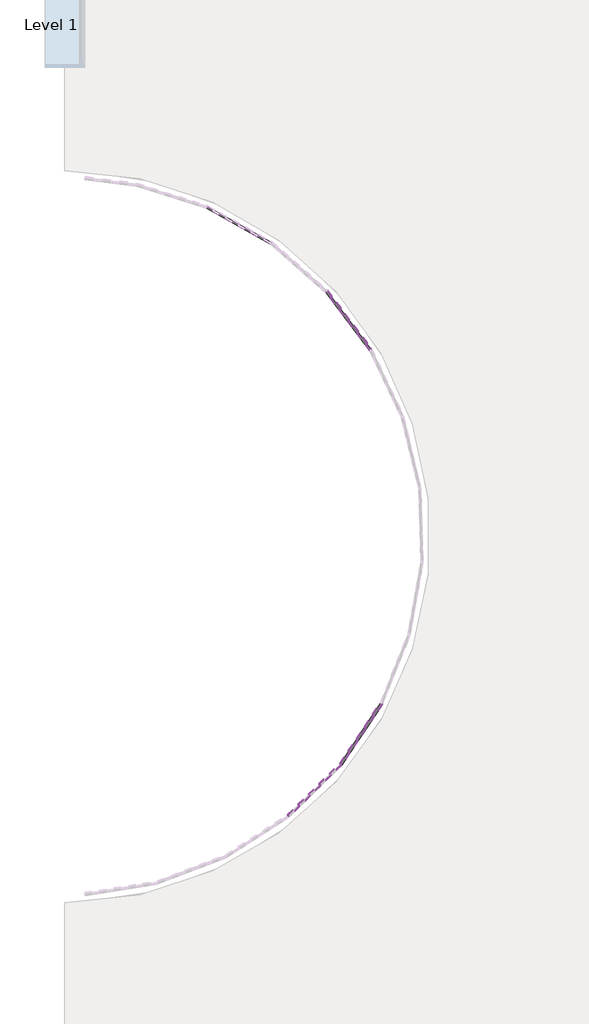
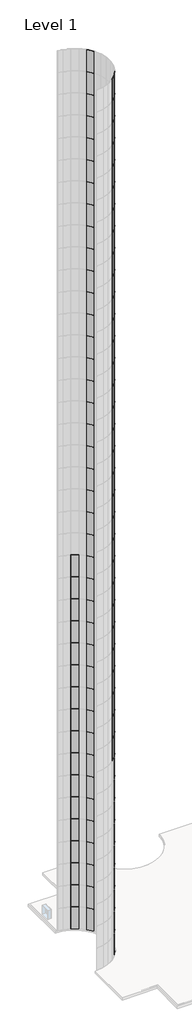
# One storey, part 3 of 19: 128 plates.
"""IFC4 building model written with IfcOpenShell, lengths in millimetres."""

from ifc_helpers import new_model, si_unit, origin, place, context, project, spatial, transform, mapped, element, save
from components import system_panel_glazed_d77d1ebf

model = new_model("IFC4")

# Units and contexts
model_context = context("Model", 3, world=origin())
ifc_project = project(units=[si_unit("LENGTHUNIT", "METRE", prefix="MILLI")], contexts=[model_context])

# Site, building, storey
site = spatial("IfcSite", under=ifc_project)
building = spatial("IfcBuilding", under=site)
storey = spatial("IfcBuildingStorey", under=building, Name="Level 1", Elevation=0.0)

# Plates
placement = place(None, origin())
system_panel_glazed_shape = system_panel_glazed_d77d1ebf(model_context)
element("IfcPlate", 1, ObjectType="System Panel : Glazed", at=placement, inside=storey, context=model_context, shape_type="MappedRepresentation", body=[
    mapped(system_panel_glazed_shape, transform((-8194.3790499, -3518.0259599, 0.0), x_axis=(-0.603512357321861, 0.7973536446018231, 0.0), y_axis=(-0.7973536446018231, -0.603512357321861, 0.0), z_axis=(0.0, 0.0, 1.0))),
])
element("IfcPlate", 2, ObjectType="System Panel : Glazed", at=placement, inside=storey, context=model_context, shape_type="MappedRepresentation", body=[
    mapped(system_panel_glazed_shape, transform((-9558.369511, -2329.0151794, 0.0), x_axis=(-0.8722386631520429, 0.4890804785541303, 0.0), y_axis=(-0.4890804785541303, -0.8722386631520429, 0.0), z_axis=(0.0, 0.0, 1.0))),
])
element("IfcPlate", 3, ObjectType="System Panel : Glazed", at=placement, inside=storey, context=model_context, shape_type="MappedRepresentation", body=[
    mapped(system_panel_glazed_shape, transform((-8194.3790499, -3518.0259599, 3048.0), x_axis=(-0.603512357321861, 0.7973536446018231, 0.0), y_axis=(-0.7973536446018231, -0.603512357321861, 0.0), z_axis=(0.0, 0.0, 1.0))),
])
element("IfcPlate", 4, ObjectType="System Panel : Glazed", at=placement, inside=storey, context=model_context, shape_type="MappedRepresentation", body=[
    mapped(system_panel_glazed_shape, transform((-9558.369511, -2329.0151794, 3048.0), x_axis=(-0.8722386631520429, 0.4890804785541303, 0.0), y_axis=(-0.4890804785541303, -0.8722386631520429, 0.0), z_axis=(0.0, 0.0, 1.0))),
])
element("IfcPlate", 5, ObjectType="System Panel : Glazed", at=placement, inside=storey, context=model_context, shape_type="MappedRepresentation", body=[
    mapped(system_panel_glazed_shape, transform((-8194.3790499, -3518.0259599, 6096.0), x_axis=(-0.603512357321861, 0.7973536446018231, 0.0), y_axis=(-0.7973536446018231, -0.603512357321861, 0.0), z_axis=(0.0, 0.0, 1.0))),
])
element("IfcPlate", 6, ObjectType="System Panel : Glazed", at=placement, inside=storey, context=model_context, shape_type="MappedRepresentation", body=[
    mapped(system_panel_glazed_shape, transform((-9558.369511, -2329.0151794, 6096.0), x_axis=(-0.8722386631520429, 0.4890804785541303, 0.0), y_axis=(-0.4890804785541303, -0.8722386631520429, 0.0), z_axis=(0.0, 0.0, 1.0))),
])
element("IfcPlate", 7, ObjectType="System Panel : Glazed", at=placement, inside=storey, context=model_context, shape_type="MappedRepresentation", body=[
    mapped(system_panel_glazed_shape, transform((-8194.3790499, -3518.0259599, 9144.0), x_axis=(-0.603512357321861, 0.7973536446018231, 0.0), y_axis=(-0.7973536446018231, -0.603512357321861, 0.0), z_axis=(0.0, 0.0, 1.0))),
])
element("IfcPlate", 8, ObjectType="System Panel : Glazed", at=placement, inside=storey, context=model_context, shape_type="MappedRepresentation", body=[
    mapped(system_panel_glazed_shape, transform((-9558.369511, -2329.0151794, 9144.0), x_axis=(-0.8722386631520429, 0.4890804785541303, 0.0), y_axis=(-0.4890804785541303, -0.8722386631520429, 0.0), z_axis=(0.0, 0.0, 1.0))),
])
element("IfcPlate", 9, ObjectType="System Panel : Glazed", at=placement, inside=storey, context=model_context, shape_type="MappedRepresentation", body=[
    mapped(system_panel_glazed_shape, transform((-8194.3790499, -3518.0259599, 12192.0), x_axis=(-0.603512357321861, 0.7973536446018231, 0.0), y_axis=(-0.7973536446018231, -0.603512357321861, 0.0), z_axis=(0.0, 0.0, 1.0))),
])
element("IfcPlate", 10, ObjectType="System Panel : Glazed", at=placement, inside=storey, context=model_context, shape_type="MappedRepresentation", body=[
    mapped(system_panel_glazed_shape, transform((-9558.369511, -2329.0151794, 12192.0), x_axis=(-0.8722386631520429, 0.4890804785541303, 0.0), y_axis=(-0.4890804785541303, -0.8722386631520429, 0.0), z_axis=(0.0, 0.0, 1.0))),
])
element("IfcPlate", 11, ObjectType="System Panel : Glazed", at=placement, inside=storey, context=model_context, shape_type="MappedRepresentation", body=[
    mapped(system_panel_glazed_shape, transform((-8194.3790499, -3518.0259599, 15240.0), x_axis=(-0.603512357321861, 0.7973536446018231, 0.0), y_axis=(-0.7973536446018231, -0.603512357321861, 0.0), z_axis=(0.0, 0.0, 1.0))),
])
element("IfcPlate", 12, ObjectType="System Panel : Glazed", at=placement, inside=storey, context=model_context, shape_type="MappedRepresentation", body=[
    mapped(system_panel_glazed_shape, transform((-9558.369511, -2329.0151794, 15240.0), x_axis=(-0.8722386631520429, 0.4890804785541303, 0.0), y_axis=(-0.4890804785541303, -0.8722386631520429, 0.0), z_axis=(0.0, 0.0, 1.0))),
])
element("IfcPlate", 13, ObjectType="System Panel : Glazed", at=placement, inside=storey, context=model_context, shape_type="MappedRepresentation", body=[
    mapped(system_panel_glazed_shape, transform((-8194.3790499, -3518.0259599, 18288.0), x_axis=(-0.6035123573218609, 0.7973536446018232, 0.0), y_axis=(-0.7973536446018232, -0.6035123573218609, 0.0), z_axis=(0.0, 0.0, 1.0))),
])
element("IfcPlate", 14, ObjectType="System Panel : Glazed", at=placement, inside=storey, context=model_context, shape_type="MappedRepresentation", body=[
    mapped(system_panel_glazed_shape, transform((-9558.369511, -2329.0151794, 18288.0), x_axis=(-0.8722386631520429, 0.4890804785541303, 0.0), y_axis=(-0.4890804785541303, -0.8722386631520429, 0.0), z_axis=(0.0, 0.0, 1.0))),
])
element("IfcPlate", 15, ObjectType="System Panel : Glazed", at=placement, inside=storey, context=model_context, shape_type="MappedRepresentation", body=[
    mapped(system_panel_glazed_shape, transform((-8194.3790499, -3518.0259599, 21336.0), x_axis=(-0.603512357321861, 0.7973536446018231, 0.0), y_axis=(-0.7973536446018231, -0.603512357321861, 0.0), z_axis=(0.0, 0.0, 1.0))),
])
element("IfcPlate", 16, ObjectType="System Panel : Glazed", at=placement, inside=storey, context=model_context, shape_type="MappedRepresentation", body=[
    mapped(system_panel_glazed_shape, transform((-9558.369511, -2329.0151794, 21336.0), x_axis=(-0.8722386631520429, 0.4890804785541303, 0.0), y_axis=(-0.4890804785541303, -0.8722386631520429, 0.0), z_axis=(0.0, 0.0, 1.0))),
])
element("IfcPlate", 17, ObjectType="System Panel : Glazed", at=placement, inside=storey, context=model_context, shape_type="MappedRepresentation", body=[
    mapped(system_panel_glazed_shape, transform((-8194.3790499, -3518.0259599, 24384.0), x_axis=(-0.603512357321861, 0.7973536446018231, 0.0), y_axis=(-0.7973536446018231, -0.603512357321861, 0.0), z_axis=(0.0, 0.0, 1.0))),
])
element("IfcPlate", 18, ObjectType="System Panel : Glazed", at=placement, inside=storey, context=model_context, shape_type="MappedRepresentation", body=[
    mapped(system_panel_glazed_shape, transform((-9558.369511, -2329.0151794, 24384.0), x_axis=(-0.8722386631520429, 0.4890804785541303, 0.0), y_axis=(-0.4890804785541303, -0.8722386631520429, 0.0), z_axis=(0.0, 0.0, 1.0))),
])
element("IfcPlate", 19, ObjectType="System Panel : Glazed", at=placement, inside=storey, context=model_context, shape_type="MappedRepresentation", body=[
    mapped(system_panel_glazed_shape, transform((-8194.3790499, -3518.0259599, 27432.0), x_axis=(-0.603512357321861, 0.7973536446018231, 0.0), y_axis=(-0.7973536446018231, -0.603512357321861, 0.0), z_axis=(0.0, 0.0, 1.0))),
])
element("IfcPlate", 20, ObjectType="System Panel : Glazed", at=placement, inside=storey, context=model_context, shape_type="MappedRepresentation", body=[
    mapped(system_panel_glazed_shape, transform((-9558.369511, -2329.0151794, 27432.0), x_axis=(-0.8722386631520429, 0.4890804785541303, 0.0), y_axis=(-0.4890804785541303, -0.8722386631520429, 0.0), z_axis=(0.0, 0.0, 1.0))),
])
element("IfcPlate", 21, ObjectType="System Panel : Glazed", at=placement, inside=storey, context=model_context, shape_type="MappedRepresentation", body=[
    mapped(system_panel_glazed_shape, transform((-8194.3790499, -3518.0259599, 30480.0), x_axis=(-0.603512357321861, 0.7973536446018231, 0.0), y_axis=(-0.7973536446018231, -0.603512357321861, 0.0), z_axis=(0.0, 0.0, 1.0))),
])
element("IfcPlate", 22, ObjectType="System Panel : Glazed", at=placement, inside=storey, context=model_context, shape_type="MappedRepresentation", body=[
    mapped(system_panel_glazed_shape, transform((-9558.369511, -2329.0151794, 30480.0), x_axis=(-0.8722386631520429, 0.4890804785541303, 0.0), y_axis=(-0.4890804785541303, -0.8722386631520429, 0.0), z_axis=(0.0, 0.0, 1.0))),
])
element("IfcPlate", 23, ObjectType="System Panel : Glazed", at=placement, inside=storey, context=model_context, shape_type="MappedRepresentation", body=[
    mapped(system_panel_glazed_shape, transform((-8194.3790499, -3518.0259599, 33528.0), x_axis=(-0.603512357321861, 0.7973536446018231, 0.0), y_axis=(-0.7973536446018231, -0.603512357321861, 0.0), z_axis=(0.0, 0.0, 1.0))),
])
element("IfcPlate", 24, ObjectType="System Panel : Glazed", at=placement, inside=storey, context=model_context, shape_type="MappedRepresentation", body=[
    mapped(system_panel_glazed_shape, transform((-9558.369511, -2329.0151794, 33528.0), x_axis=(-0.8722386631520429, 0.4890804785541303, 0.0), y_axis=(-0.4890804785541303, -0.8722386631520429, 0.0), z_axis=(0.0, 0.0, 1.0))),
])
element("IfcPlate", 25, ObjectType="System Panel : Glazed", at=placement, inside=storey, context=model_context, shape_type="MappedRepresentation", body=[
    mapped(system_panel_glazed_shape, transform((-8194.3790499, -3518.0259599, 36576.0), x_axis=(-0.603512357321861, 0.7973536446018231, 0.0), y_axis=(-0.7973536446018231, -0.603512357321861, 0.0), z_axis=(0.0, 0.0, 1.0))),
])
element("IfcPlate", 26, ObjectType="System Panel : Glazed", at=placement, inside=storey, context=model_context, shape_type="MappedRepresentation", body=[
    mapped(system_panel_glazed_shape, transform((-9558.369511, -2329.0151794, 36576.0), x_axis=(-0.8722386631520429, 0.4890804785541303, 0.0), y_axis=(-0.4890804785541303, -0.8722386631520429, 0.0), z_axis=(0.0, 0.0, 1.0))),
])
element("IfcPlate", 27, ObjectType="System Panel : Glazed", at=placement, inside=storey, context=model_context, shape_type="MappedRepresentation", body=[
    mapped(system_panel_glazed_shape, transform((-8194.3790499, -3518.0259599, 39624.0), x_axis=(-0.603512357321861, 0.7973536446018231, 0.0), y_axis=(-0.7973536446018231, -0.603512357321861, 0.0), z_axis=(0.0, 0.0, 1.0))),
])
element("IfcPlate", 28, ObjectType="System Panel : Glazed", at=placement, inside=storey, context=model_context, shape_type="MappedRepresentation", body=[
    mapped(system_panel_glazed_shape, transform((-9558.369511, -2329.0151794, 39624.0), x_axis=(-0.8722386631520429, 0.4890804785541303, 0.0), y_axis=(-0.4890804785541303, -0.8722386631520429, 0.0), z_axis=(0.0, 0.0, 1.0))),
])
element("IfcPlate", 29, ObjectType="System Panel : Glazed", at=placement, inside=storey, context=model_context, shape_type="MappedRepresentation", body=[
    mapped(system_panel_glazed_shape, transform((-8194.3790499, -3518.0259599, 42672.0), x_axis=(-0.603512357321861, 0.7973536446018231, 0.0), y_axis=(-0.7973536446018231, -0.603512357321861, 0.0), z_axis=(0.0, 0.0, 1.0))),
])
element("IfcPlate", 30, ObjectType="System Panel : Glazed", at=placement, inside=storey, context=model_context, shape_type="MappedRepresentation", body=[
    mapped(system_panel_glazed_shape, transform((-9558.369511, -2329.0151794, 42672.0), x_axis=(-0.8722386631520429, 0.4890804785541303, 0.0), y_axis=(-0.4890804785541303, -0.8722386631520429, 0.0), z_axis=(0.0, 0.0, 1.0))),
])
element("IfcPlate", 31, ObjectType="System Panel : Glazed", at=placement, inside=storey, context=model_context, shape_type="MappedRepresentation", body=[
    mapped(system_panel_glazed_shape, transform((-8194.3790499, -3518.0259599, 45720.0), x_axis=(-0.603512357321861, 0.7973536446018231, 0.0), y_axis=(-0.7973536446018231, -0.603512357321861, 0.0), z_axis=(0.0, 0.0, 1.0))),
])
element("IfcPlate", 32, ObjectType="System Panel : Glazed", at=placement, inside=storey, context=model_context, shape_type="MappedRepresentation", body=[
    mapped(system_panel_glazed_shape, transform((-9558.369511, -2329.0151794, 45720.0), x_axis=(-0.8722386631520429, 0.4890804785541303, 0.0), y_axis=(-0.4890804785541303, -0.8722386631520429, 0.0), z_axis=(0.0, 0.0, 1.0))),
])
element("IfcPlate", 33, ObjectType="System Panel : Glazed", at=placement, inside=storey, context=model_context, shape_type="MappedRepresentation", body=[
    mapped(system_panel_glazed_shape, transform((-8194.3790499, -3518.0259599, 48768.0), x_axis=(-0.603512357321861, 0.7973536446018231, 0.0), y_axis=(-0.7973536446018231, -0.603512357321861, 0.0), z_axis=(0.0, 0.0, 1.0))),
])
element("IfcPlate", 34, ObjectType="System Panel : Glazed", at=placement, inside=storey, context=model_context, shape_type="MappedRepresentation", body=[
    mapped(system_panel_glazed_shape, transform((-9558.369511, -2329.0151794, 48768.0), x_axis=(-0.8722386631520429, 0.4890804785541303, 0.0), y_axis=(-0.4890804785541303, -0.8722386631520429, 0.0), z_axis=(0.0, 0.0, 1.0))),
])
element("IfcPlate", 35, ObjectType="System Panel : Glazed", at=placement, inside=storey, context=model_context, shape_type="MappedRepresentation", body=[
    mapped(system_panel_glazed_shape, transform((-8194.3790499, -3518.0259599, 51816.0), x_axis=(-0.603512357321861, 0.7973536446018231, 0.0), y_axis=(-0.7973536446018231, -0.603512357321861, 0.0), z_axis=(0.0, 0.0, 1.0))),
])
element("IfcPlate", 36, ObjectType="System Panel : Glazed", at=placement, inside=storey, context=model_context, shape_type="MappedRepresentation", body=[
    mapped(system_panel_glazed_shape, transform((-8194.3790499, -3518.0259599, 54864.0), x_axis=(-0.603512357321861, 0.7973536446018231, 0.0), y_axis=(-0.7973536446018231, -0.603512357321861, 0.0), z_axis=(0.0, 0.0, 1.0))),
])
element("IfcPlate", 37, ObjectType="System Panel : Glazed", at=placement, inside=storey, context=model_context, shape_type="MappedRepresentation", body=[
    mapped(system_panel_glazed_shape, transform((-8194.3790499, -3518.0259599, 57912.0), x_axis=(-0.603512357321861, 0.7973536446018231, 0.0), y_axis=(-0.7973536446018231, -0.603512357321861, 0.0), z_axis=(0.0, 0.0, 1.0))),
])
element("IfcPlate", 38, ObjectType="System Panel : Glazed", at=placement, inside=storey, context=model_context, shape_type="MappedRepresentation", body=[
    mapped(system_panel_glazed_shape, transform((-8194.3790499, -3518.0259599, 60960.0), x_axis=(-0.603512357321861, 0.7973536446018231, 0.0), y_axis=(-0.7973536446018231, -0.603512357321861, 0.0), z_axis=(0.0, 0.0, 1.0))),
])
element("IfcPlate", 39, ObjectType="System Panel : Glazed", at=placement, inside=storey, context=model_context, shape_type="MappedRepresentation", body=[
    mapped(system_panel_glazed_shape, transform((-8194.3790499, -3518.0259599, 64008.0), x_axis=(-0.603512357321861, 0.7973536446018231, 0.0), y_axis=(-0.7973536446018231, -0.603512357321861, 0.0), z_axis=(0.0, 0.0, 1.0))),
])
element("IfcPlate", 40, ObjectType="System Panel : Glazed", at=placement, inside=storey, context=model_context, shape_type="MappedRepresentation", body=[
    mapped(system_panel_glazed_shape, transform((-8194.3790499, -3518.0259599, 67056.0), x_axis=(-0.603512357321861, 0.7973536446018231, 0.0), y_axis=(-0.7973536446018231, -0.603512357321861, 0.0), z_axis=(0.0, 0.0, 1.0))),
])
element("IfcPlate", 41, ObjectType="System Panel : Glazed", at=placement, inside=storey, context=model_context, shape_type="MappedRepresentation", body=[
    mapped(system_panel_glazed_shape, transform((-8194.3790499, -3518.0259599, 70104.0), x_axis=(-0.603512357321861, 0.7973536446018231, 0.0), y_axis=(-0.7973536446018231, -0.603512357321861, 0.0), z_axis=(0.0, 0.0, 1.0))),
])
element("IfcPlate", 42, ObjectType="System Panel : Glazed", at=placement, inside=storey, context=model_context, shape_type="MappedRepresentation", body=[
    mapped(system_panel_glazed_shape, transform((-8194.3790499, -3518.0259599, 73152.0), x_axis=(-0.603512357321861, 0.7973536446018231, 0.0), y_axis=(-0.7973536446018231, -0.603512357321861, 0.0), z_axis=(0.0, 0.0, 1.0))),
])
element("IfcPlate", 43, ObjectType="System Panel : Glazed", at=placement, inside=storey, context=model_context, shape_type="MappedRepresentation", body=[
    mapped(system_panel_glazed_shape, transform((-8194.3790499, -3518.0259599, 76200.0), x_axis=(-0.603512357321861, 0.7973536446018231, 0.0), y_axis=(-0.7973536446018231, -0.603512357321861, 0.0), z_axis=(0.0, 0.0, 1.0))),
])
element("IfcPlate", 44, ObjectType="System Panel : Glazed", at=placement, inside=storey, context=model_context, shape_type="MappedRepresentation", body=[
    mapped(system_panel_glazed_shape, transform((-8194.3790499, -3518.0259599, 79248.0), x_axis=(-0.603512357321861, 0.7973536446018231, 0.0), y_axis=(-0.7973536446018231, -0.603512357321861, 0.0), z_axis=(0.0, 0.0, 1.0))),
])
element("IfcPlate", 45, ObjectType="System Panel : Glazed", at=placement, inside=storey, context=model_context, shape_type="MappedRepresentation", body=[
    mapped(system_panel_glazed_shape, transform((-8194.3790499, -3518.0259599, 82296.0), x_axis=(-0.603512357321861, 0.7973536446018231, 0.0), y_axis=(-0.7973536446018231, -0.603512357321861, 0.0), z_axis=(0.0, 0.0, 1.0))),
])
element("IfcPlate", 46, ObjectType="System Panel : Glazed", at=placement, inside=storey, context=model_context, shape_type="MappedRepresentation", body=[
    mapped(system_panel_glazed_shape, transform((-8194.3790499, -3518.0259599, 85344.0), x_axis=(-0.603512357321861, 0.7973536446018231, 0.0), y_axis=(-0.7973536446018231, -0.603512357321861, 0.0), z_axis=(0.0, 0.0, 1.0))),
])
element("IfcPlate", 47, ObjectType="System Panel : Glazed", at=placement, inside=storey, context=model_context, shape_type="MappedRepresentation", body=[
    mapped(system_panel_glazed_shape, transform((-8194.3790499, -3518.0259599, 88392.0), x_axis=(-0.603512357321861, 0.7973536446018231, 0.0), y_axis=(-0.7973536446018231, -0.603512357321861, 0.0), z_axis=(0.0, 0.0, 1.0))),
])
element("IfcPlate", 48, ObjectType="System Panel : Glazed", at=placement, inside=storey, context=model_context, shape_type="MappedRepresentation", body=[
    mapped(system_panel_glazed_shape, transform((-8194.3790499, -3518.0259599, 91440.0), x_axis=(-0.603512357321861, 0.7973536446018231, 0.0), y_axis=(-0.7973536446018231, -0.603512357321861, 0.0), z_axis=(0.0, 0.0, 1.0))),
])
element("IfcPlate", 49, ObjectType="System Panel : Glazed", at=placement, inside=storey, context=model_context, shape_type="MappedRepresentation", body=[
    mapped(system_panel_glazed_shape, transform((-8194.3790499, -3518.0259599, 94488.0), x_axis=(-0.603512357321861, 0.7973536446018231, 0.0), y_axis=(-0.7973536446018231, -0.603512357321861, 0.0), z_axis=(0.0, 0.0, 1.0))),
])
element("IfcPlate", 50, ObjectType="System Panel : Glazed", at=placement, inside=storey, context=model_context, shape_type="MappedRepresentation", body=[
    mapped(system_panel_glazed_shape, transform((-8194.3790499, -3518.0259599, 97536.0), x_axis=(-0.603512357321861, 0.7973536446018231, 0.0), y_axis=(-0.7973536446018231, -0.603512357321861, 0.0), z_axis=(0.0, 0.0, 1.0))),
])
element("IfcPlate", 51, ObjectType="System Panel : Glazed", at=placement, inside=storey, context=model_context, shape_type="MappedRepresentation", body=[
    mapped(system_panel_glazed_shape, transform((-8194.3790499, -3518.0259599, 100584.0), x_axis=(-0.603512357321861, 0.7973536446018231, 0.0), y_axis=(-0.7973536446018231, -0.603512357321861, 0.0), z_axis=(0.0, 0.0, 1.0))),
])
element("IfcPlate", 52, ObjectType="System Panel : Glazed", at=placement, inside=storey, context=model_context, shape_type="MappedRepresentation", body=[
    mapped(system_panel_glazed_shape, transform((-8619.5129682, -9342.6274336, 27432.0), x_axis=(0.7128959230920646, 0.7012698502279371, 0.0), y_axis=(-0.7012698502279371, 0.7128959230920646, 0.0), z_axis=(0.0, 0.0, 1.0))),
])
element("IfcPlate", 53, ObjectType="System Panel : Glazed", at=placement, inside=storey, context=model_context, shape_type="MappedRepresentation", body=[
    mapped(system_panel_glazed_shape, transform((-8619.5129682, -9342.6274336, 30480.0), x_axis=(0.7128959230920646, 0.7012698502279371, 0.0), y_axis=(-0.7012698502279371, 0.7128959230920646, 0.0), z_axis=(0.0, 0.0, 1.0))),
])
element("IfcPlate", 54, ObjectType="System Panel : Glazed", at=placement, inside=storey, context=model_context, shape_type="MappedRepresentation", body=[
    mapped(system_panel_glazed_shape, transform((-8619.5129682, -9342.6274336, 33528.0), x_axis=(0.7128959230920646, 0.7012698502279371, 0.0), y_axis=(-0.7012698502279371, 0.7128959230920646, 0.0), z_axis=(0.0, 0.0, 1.0))),
])
element("IfcPlate", 55, ObjectType="System Panel : Glazed", at=placement, inside=storey, context=model_context, shape_type="MappedRepresentation", body=[
    mapped(system_panel_glazed_shape, transform((-8619.5129682, -9342.6274336, 36576.0), x_axis=(0.7128959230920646, 0.7012698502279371, 0.0), y_axis=(-0.7012698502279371, 0.7128959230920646, 0.0), z_axis=(0.0, 0.0, 1.0))),
])
element("IfcPlate", 56, ObjectType="System Panel : Glazed", at=placement, inside=storey, context=model_context, shape_type="MappedRepresentation", body=[
    mapped(system_panel_glazed_shape, transform((-8619.5129682, -9342.6274336, 39624.0), x_axis=(0.7128959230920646, 0.7012698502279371, 0.0), y_axis=(-0.7012698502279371, 0.7128959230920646, 0.0), z_axis=(0.0, 0.0, 1.0))),
])
element("IfcPlate", 57, ObjectType="System Panel : Glazed", at=placement, inside=storey, context=model_context, shape_type="MappedRepresentation", body=[
    mapped(system_panel_glazed_shape, transform((-8619.5129682, -9342.6274336, 42672.0), x_axis=(0.7128959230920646, 0.7012698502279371, 0.0), y_axis=(-0.7012698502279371, 0.7128959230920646, 0.0), z_axis=(0.0, 0.0, 1.0))),
])
element("IfcPlate", 58, ObjectType="System Panel : Glazed", at=placement, inside=storey, context=model_context, shape_type="MappedRepresentation", body=[
    mapped(system_panel_glazed_shape, transform((-8619.5129682, -9342.6274336, 45720.0), x_axis=(0.7128959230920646, 0.7012698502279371, 0.0), y_axis=(-0.7012698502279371, 0.7128959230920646, 0.0), z_axis=(0.0, 0.0, 1.0))),
])
element("IfcPlate", 59, ObjectType="System Panel : Glazed", at=placement, inside=storey, context=model_context, shape_type="MappedRepresentation", body=[
    mapped(system_panel_glazed_shape, transform((-8619.5129682, -9342.6274336, 48768.0), x_axis=(0.7128959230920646, 0.7012698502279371, 0.0), y_axis=(-0.7012698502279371, 0.7128959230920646, 0.0), z_axis=(0.0, 0.0, 1.0))),
])
element("IfcPlate", 60, ObjectType="System Panel : Glazed", at=placement, inside=storey, context=model_context, shape_type="MappedRepresentation", body=[
    mapped(system_panel_glazed_shape, transform((-8619.5129682, -9342.6274336, 51816.0), x_axis=(0.7128959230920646, 0.7012698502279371, 0.0), y_axis=(-0.7012698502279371, 0.7128959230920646, 0.0), z_axis=(0.0, 0.0, 1.0))),
])
element("IfcPlate", 61, ObjectType="System Panel : Glazed", at=placement, inside=storey, context=model_context, shape_type="MappedRepresentation", body=[
    mapped(system_panel_glazed_shape, transform((-8619.5129682, -9342.6274336, 54864.0), x_axis=(0.7128959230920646, 0.7012698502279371, 0.0), y_axis=(-0.7012698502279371, 0.7128959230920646, 0.0), z_axis=(0.0, 0.0, 1.0))),
])
element("IfcPlate", 62, ObjectType="System Panel : Glazed", at=placement, inside=storey, context=model_context, shape_type="MappedRepresentation", body=[
    mapped(system_panel_glazed_shape, transform((-8619.5129682, -9342.6274336, 57912.0), x_axis=(0.7128959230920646, 0.7012698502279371, 0.0), y_axis=(-0.7012698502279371, 0.7128959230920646, 0.0), z_axis=(0.0, 0.0, 1.0))),
])
element("IfcPlate", 63, ObjectType="System Panel : Glazed", at=placement, inside=storey, context=model_context, shape_type="MappedRepresentation", body=[
    mapped(system_panel_glazed_shape, transform((-8619.5129682, -9342.6274336, 60960.0), x_axis=(0.7128959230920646, 0.7012698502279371, 0.0), y_axis=(-0.7012698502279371, 0.7128959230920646, 0.0), z_axis=(0.0, 0.0, 1.0))),
])
element("IfcPlate", 64, ObjectType="System Panel : Glazed", at=placement, inside=storey, context=model_context, shape_type="MappedRepresentation", body=[
    mapped(system_panel_glazed_shape, transform((-8619.5129682, -9342.6274336, 64008.0), x_axis=(0.7128959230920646, 0.7012698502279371, 0.0), y_axis=(-0.7012698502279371, 0.7128959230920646, 0.0), z_axis=(0.0, 0.0, 1.0))),
])
element("IfcPlate", 65, ObjectType="System Panel : Glazed", at=placement, inside=storey, context=model_context, shape_type="MappedRepresentation", body=[
    mapped(system_panel_glazed_shape, transform((-8619.5129682, -9342.6274336, 67056.0), x_axis=(0.7128959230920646, 0.7012698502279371, 0.0), y_axis=(-0.7012698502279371, 0.7128959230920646, 0.0), z_axis=(0.0, 0.0, 1.0))),
])
element("IfcPlate", 66, ObjectType="System Panel : Glazed", at=placement, inside=storey, context=model_context, shape_type="MappedRepresentation", body=[
    mapped(system_panel_glazed_shape, transform((-8619.5129682, -9342.6274336, 70104.0), x_axis=(0.7128959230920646, 0.7012698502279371, 0.0), y_axis=(-0.7012698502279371, 0.7128959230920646, 0.0), z_axis=(0.0, 0.0, 1.0))),
])
element("IfcPlate", 67, ObjectType="System Panel : Glazed", at=placement, inside=storey, context=model_context, shape_type="MappedRepresentation", body=[
    mapped(system_panel_glazed_shape, transform((-8619.5129682, -9342.6274336, 73152.0), x_axis=(0.7128959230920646, 0.7012698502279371, 0.0), y_axis=(-0.7012698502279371, 0.7128959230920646, 0.0), z_axis=(0.0, 0.0, 1.0))),
])
element("IfcPlate", 68, ObjectType="System Panel : Glazed", at=placement, inside=storey, context=model_context, shape_type="MappedRepresentation", body=[
    mapped(system_panel_glazed_shape, transform((-8619.5129682, -9342.6274336, 76200.0), x_axis=(0.7128959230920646, 0.7012698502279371, 0.0), y_axis=(-0.7012698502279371, 0.7128959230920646, 0.0), z_axis=(0.0, 0.0, 1.0))),
])
element("IfcPlate", 69, ObjectType="System Panel : Glazed", at=placement, inside=storey, context=model_context, shape_type="MappedRepresentation", body=[
    mapped(system_panel_glazed_shape, transform((-8619.5129682, -9342.6274336, 79248.0), x_axis=(0.7128959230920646, 0.7012698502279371, 0.0), y_axis=(-0.7012698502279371, 0.7128959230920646, 0.0), z_axis=(0.0, 0.0, 1.0))),
])
element("IfcPlate", 70, ObjectType="System Panel : Glazed", at=placement, inside=storey, context=model_context, shape_type="MappedRepresentation", body=[
    mapped(system_panel_glazed_shape, transform((-8619.5129682, -9342.6274336, 82296.0), x_axis=(0.7128959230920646, 0.7012698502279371, 0.0), y_axis=(-0.7012698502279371, 0.7128959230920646, 0.0), z_axis=(0.0, 0.0, 1.0))),
])
element("IfcPlate", 71, ObjectType="System Panel : Glazed", at=placement, inside=storey, context=model_context, shape_type="MappedRepresentation", body=[
    mapped(system_panel_glazed_shape, transform((-8619.5129682, -9342.6274336, 85344.0), x_axis=(0.7128959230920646, 0.7012698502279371, 0.0), y_axis=(-0.7012698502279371, 0.7128959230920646, 0.0), z_axis=(0.0, 0.0, 1.0))),
])
element("IfcPlate", 72, ObjectType="System Panel : Glazed", at=placement, inside=storey, context=model_context, shape_type="MappedRepresentation", body=[
    mapped(system_panel_glazed_shape, transform((-8619.5129682, -9342.6274336, 88392.0), x_axis=(0.7128959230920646, 0.7012698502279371, 0.0), y_axis=(-0.7012698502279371, 0.7128959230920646, 0.0), z_axis=(0.0, 0.0, 1.0))),
])
element("IfcPlate", 73, ObjectType="System Panel : Glazed", at=placement, inside=storey, context=model_context, shape_type="MappedRepresentation", body=[
    mapped(system_panel_glazed_shape, transform((-8619.5129682, -9342.6274336, 91440.0), x_axis=(0.7128959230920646, 0.7012698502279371, 0.0), y_axis=(-0.7012698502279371, 0.7128959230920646, 0.0), z_axis=(0.0, 0.0, 1.0))),
])
element("IfcPlate", 74, ObjectType="System Panel : Glazed", at=placement, inside=storey, context=model_context, shape_type="MappedRepresentation", body=[
    mapped(system_panel_glazed_shape, transform((-8619.5129682, -9342.6274336, 94488.0), x_axis=(0.7128959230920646, 0.7012698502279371, 0.0), y_axis=(-0.7012698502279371, 0.7128959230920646, 0.0), z_axis=(0.0, 0.0, 1.0))),
])
element("IfcPlate", 75, ObjectType="System Panel : Glazed", at=placement, inside=storey, context=model_context, shape_type="MappedRepresentation", body=[
    mapped(system_panel_glazed_shape, transform((-8619.5129682, -9342.6274336, 97536.0), x_axis=(0.7128959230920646, 0.7012698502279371, 0.0), y_axis=(-0.7012698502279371, 0.7128959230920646, 0.0), z_axis=(0.0, 0.0, 1.0))),
])
element("IfcPlate", 76, ObjectType="System Panel : Glazed", at=placement, inside=storey, context=model_context, shape_type="MappedRepresentation", body=[
    mapped(system_panel_glazed_shape, transform((-8619.5129682, -9342.6274336, 100584.0), x_axis=(0.7128959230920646, 0.7012698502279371, 0.0), y_axis=(-0.7012698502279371, 0.7128959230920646, 0.0), z_axis=(0.0, 0.0, 1.0))),
])
element("IfcPlate", 77, ObjectType="System Panel : Glazed", at=placement, inside=storey, context=model_context, shape_type="MappedRepresentation", body=[
    mapped(system_panel_glazed_shape, transform((-8040.0877164, -8641.5136948, 0.0), x_axis=(0.5544383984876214, 0.8322247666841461, 0.0), y_axis=(-0.8322247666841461, 0.5544383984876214, 0.0), z_axis=(0.0, 0.0, 1.0))),
])
element("IfcPlate", 78, ObjectType="System Panel : Glazed", at=placement, inside=storey, context=model_context, shape_type="MappedRepresentation", body=[
    mapped(system_panel_glazed_shape, transform((-8040.0877164, -8641.5136948, 3048.0), x_axis=(0.5544383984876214, 0.8322247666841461, 0.0), y_axis=(-0.8322247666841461, 0.5544383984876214, 0.0), z_axis=(0.0, 0.0, 1.0))),
])
element("IfcPlate", 79, ObjectType="System Panel : Glazed", at=placement, inside=storey, context=model_context, shape_type="MappedRepresentation", body=[
    mapped(system_panel_glazed_shape, transform((-8040.0877164, -8641.5136948, 6096.0), x_axis=(0.5544383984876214, 0.8322247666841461, 0.0), y_axis=(-0.8322247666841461, 0.5544383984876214, 0.0), z_axis=(0.0, 0.0, 1.0))),
])
element("IfcPlate", 80, ObjectType="System Panel : Glazed", at=placement, inside=storey, context=model_context, shape_type="MappedRepresentation", body=[
    mapped(system_panel_glazed_shape, transform((-8040.0877164, -8641.5136948, 9144.0), x_axis=(0.5544383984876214, 0.8322247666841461, 0.0), y_axis=(-0.8322247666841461, 0.5544383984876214, 0.0), z_axis=(0.0, 0.0, 1.0))),
])
element("IfcPlate", 81, ObjectType="System Panel : Glazed", at=placement, inside=storey, context=model_context, shape_type="MappedRepresentation", body=[
    mapped(system_panel_glazed_shape, transform((-8040.0877164, -8641.5136948, 12192.0), x_axis=(0.5544383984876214, 0.8322247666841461, 0.0), y_axis=(-0.8322247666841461, 0.5544383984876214, 0.0), z_axis=(0.0, 0.0, 1.0))),
])
element("IfcPlate", 82, ObjectType="System Panel : Glazed", at=placement, inside=storey, context=model_context, shape_type="MappedRepresentation", body=[
    mapped(system_panel_glazed_shape, transform((-8040.0877164, -8641.5136948, 15240.0), x_axis=(0.5544383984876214, 0.8322247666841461, 0.0), y_axis=(-0.8322247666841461, 0.5544383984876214, 0.0), z_axis=(0.0, 0.0, 1.0))),
])
element("IfcPlate", 83, ObjectType="System Panel : Glazed", at=placement, inside=storey, context=model_context, shape_type="MappedRepresentation", body=[
    mapped(system_panel_glazed_shape, transform((-8040.0877164, -8641.5136948, 18288.0), x_axis=(0.5544383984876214, 0.8322247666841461, 0.0), y_axis=(-0.8322247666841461, 0.5544383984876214, 0.0), z_axis=(0.0, 0.0, 1.0))),
])
element("IfcPlate", 84, ObjectType="System Panel : Glazed", at=placement, inside=storey, context=model_context, shape_type="MappedRepresentation", body=[
    mapped(system_panel_glazed_shape, transform((-8040.0877164, -8641.5136948, 21336.0), x_axis=(0.5544383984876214, 0.8322247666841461, 0.0), y_axis=(-0.8322247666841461, 0.5544383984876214, 0.0), z_axis=(0.0, 0.0, 1.0))),
])
element("IfcPlate", 85, ObjectType="System Panel : Glazed", at=placement, inside=storey, context=model_context, shape_type="MappedRepresentation", body=[
    mapped(system_panel_glazed_shape, transform((-8040.0877164, -8641.5136948, 24384.0), x_axis=(0.5544383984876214, 0.8322247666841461, 0.0), y_axis=(-0.8322247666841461, 0.5544383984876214, 0.0), z_axis=(0.0, 0.0, 1.0))),
])
element("IfcPlate", 86, ObjectType="System Panel : Glazed", at=placement, inside=storey, context=model_context, shape_type="MappedRepresentation", body=[
    mapped(system_panel_glazed_shape, transform((-8040.0877164, -8641.5136948, 27432.0), x_axis=(0.5544383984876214, 0.8322247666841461, 0.0), y_axis=(-0.8322247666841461, 0.5544383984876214, 0.0), z_axis=(0.0, 0.0, 1.0))),
])
element("IfcPlate", 87, ObjectType="System Panel : Glazed", at=placement, inside=storey, context=model_context, shape_type="MappedRepresentation", body=[
    mapped(system_panel_glazed_shape, transform((-8040.0877164, -8641.5136948, 30480.0), x_axis=(0.5544383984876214, 0.8322247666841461, 0.0), y_axis=(-0.8322247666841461, 0.5544383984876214, 0.0), z_axis=(0.0, 0.0, 1.0))),
])
element("IfcPlate", 88, ObjectType="System Panel : Glazed", at=placement, inside=storey, context=model_context, shape_type="MappedRepresentation", body=[
    mapped(system_panel_glazed_shape, transform((-8040.0877164, -8641.5136948, 33528.0), x_axis=(0.5544383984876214, 0.8322247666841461, 0.0), y_axis=(-0.8322247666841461, 0.5544383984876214, 0.0), z_axis=(0.0, 0.0, 1.0))),
])
element("IfcPlate", 89, ObjectType="System Panel : Glazed", at=placement, inside=storey, context=model_context, shape_type="MappedRepresentation", body=[
    mapped(system_panel_glazed_shape, transform((-8040.0877164, -8641.5136948, 36576.0), x_axis=(0.5544383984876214, 0.8322247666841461, 0.0), y_axis=(-0.8322247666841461, 0.5544383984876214, 0.0), z_axis=(0.0, 0.0, 1.0))),
])
element("IfcPlate", 90, ObjectType="System Panel : Glazed", at=placement, inside=storey, context=model_context, shape_type="MappedRepresentation", body=[
    mapped(system_panel_glazed_shape, transform((-8040.0877164, -8641.5136948, 39624.0), x_axis=(0.5544383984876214, 0.8322247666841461, 0.0), y_axis=(-0.8322247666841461, 0.5544383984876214, 0.0), z_axis=(0.0, 0.0, 1.0))),
])
element("IfcPlate", 91, ObjectType="System Panel : Glazed", at=placement, inside=storey, context=model_context, shape_type="MappedRepresentation", body=[
    mapped(system_panel_glazed_shape, transform((-8040.0877164, -8641.5136948, 42672.0), x_axis=(0.5544383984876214, 0.8322247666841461, 0.0), y_axis=(-0.8322247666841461, 0.5544383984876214, 0.0), z_axis=(0.0, 0.0, 1.0))),
])
element("IfcPlate", 92, ObjectType="System Panel : Glazed", at=placement, inside=storey, context=model_context, shape_type="MappedRepresentation", body=[
    mapped(system_panel_glazed_shape, transform((-8040.0877164, -8641.5136948, 45720.0), x_axis=(0.5544383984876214, 0.8322247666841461, 0.0), y_axis=(-0.8322247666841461, 0.5544383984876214, 0.0), z_axis=(0.0, 0.0, 1.0))),
])
element("IfcPlate", 93, ObjectType="System Panel : Glazed", at=placement, inside=storey, context=model_context, shape_type="MappedRepresentation", body=[
    mapped(system_panel_glazed_shape, transform((-8040.0877164, -8641.5136948, 48768.0), x_axis=(0.5544383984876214, 0.8322247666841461, 0.0), y_axis=(-0.8322247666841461, 0.5544383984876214, 0.0), z_axis=(0.0, 0.0, 1.0))),
])
element("IfcPlate", 94, ObjectType="System Panel : Glazed", at=placement, inside=storey, context=model_context, shape_type="MappedRepresentation", body=[
    mapped(system_panel_glazed_shape, transform((-8040.0877164, -8641.5136948, 51816.0), x_axis=(0.5544383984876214, 0.8322247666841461, 0.0), y_axis=(-0.8322247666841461, 0.5544383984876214, 0.0), z_axis=(0.0, 0.0, 1.0))),
])
element("IfcPlate", 95, ObjectType="System Panel : Glazed", at=placement, inside=storey, context=model_context, shape_type="MappedRepresentation", body=[
    mapped(system_panel_glazed_shape, transform((-8040.0877164, -8641.5136948, 54864.0), x_axis=(0.5544383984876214, 0.8322247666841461, 0.0), y_axis=(-0.8322247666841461, 0.5544383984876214, 0.0), z_axis=(0.0, 0.0, 1.0))),
])
element("IfcPlate", 96, ObjectType="System Panel : Glazed", at=placement, inside=storey, context=model_context, shape_type="MappedRepresentation", body=[
    mapped(system_panel_glazed_shape, transform((-8040.0877164, -8641.5136948, 57912.0), x_axis=(0.5544383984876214, 0.8322247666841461, 0.0), y_axis=(-0.8322247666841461, 0.5544383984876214, 0.0), z_axis=(0.0, 0.0, 1.0))),
])
element("IfcPlate", 97, ObjectType="System Panel : Glazed", at=placement, inside=storey, context=model_context, shape_type="MappedRepresentation", body=[
    mapped(system_panel_glazed_shape, transform((-8040.0877164, -8641.5136948, 60960.0), x_axis=(0.5544383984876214, 0.8322247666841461, 0.0), y_axis=(-0.8322247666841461, 0.5544383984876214, 0.0), z_axis=(0.0, 0.0, 1.0))),
])
element("IfcPlate", 98, ObjectType="System Panel : Glazed", at=placement, inside=storey, context=model_context, shape_type="MappedRepresentation", body=[
    mapped(system_panel_glazed_shape, transform((-8040.0877164, -8641.5136948, 64008.0), x_axis=(0.5544383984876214, 0.8322247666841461, 0.0), y_axis=(-0.8322247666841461, 0.5544383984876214, 0.0), z_axis=(0.0, 0.0, 1.0))),
])
element("IfcPlate", 99, ObjectType="System Panel : Glazed", at=placement, inside=storey, context=model_context, shape_type="MappedRepresentation", body=[
    mapped(system_panel_glazed_shape, transform((-8040.0877164, -8641.5136948, 67056.0), x_axis=(0.5544383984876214, 0.8322247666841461, 0.0), y_axis=(-0.8322247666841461, 0.5544383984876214, 0.0), z_axis=(0.0, 0.0, 1.0))),
])
element("IfcPlate", 100, ObjectType="System Panel : Glazed", at=placement, inside=storey, context=model_context, shape_type="MappedRepresentation", body=[
    mapped(system_panel_glazed_shape, transform((-8040.0877164, -8641.5136948, 70104.0), x_axis=(0.5544383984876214, 0.8322247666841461, 0.0), y_axis=(-0.8322247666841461, 0.5544383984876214, 0.0), z_axis=(0.0, 0.0, 1.0))),
])
element("IfcPlate", 101, ObjectType="System Panel : Glazed", at=placement, inside=storey, context=model_context, shape_type="MappedRepresentation", body=[
    mapped(system_panel_glazed_shape, transform((-8040.0877164, -8641.5136948, 73152.0), x_axis=(0.5544383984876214, 0.8322247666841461, 0.0), y_axis=(-0.8322247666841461, 0.5544383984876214, 0.0), z_axis=(0.0, 0.0, 1.0))),
])
element("IfcPlate", 102, ObjectType="System Panel : Glazed", at=placement, inside=storey, context=model_context, shape_type="MappedRepresentation", body=[
    mapped(system_panel_glazed_shape, transform((-8040.0877164, -8641.5136948, 76200.0), x_axis=(0.5544383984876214, 0.8322247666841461, 0.0), y_axis=(-0.8322247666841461, 0.5544383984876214, 0.0), z_axis=(0.0, 0.0, 1.0))),
])
element("IfcPlate", 103, ObjectType="System Panel : Glazed", at=placement, inside=storey, context=model_context, shape_type="MappedRepresentation", body=[
    mapped(system_panel_glazed_shape, transform((-8040.0877164, -8641.5136948, 79248.0), x_axis=(0.5544383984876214, 0.8322247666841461, 0.0), y_axis=(-0.8322247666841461, 0.5544383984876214, 0.0), z_axis=(0.0, 0.0, 1.0))),
])
element("IfcPlate", 104, ObjectType="System Panel : Glazed", at=placement, inside=storey, context=model_context, shape_type="MappedRepresentation", body=[
    mapped(system_panel_glazed_shape, transform((-8040.0877164, -8641.5136948, 82296.0), x_axis=(0.5544383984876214, 0.8322247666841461, 0.0), y_axis=(-0.8322247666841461, 0.5544383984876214, 0.0), z_axis=(0.0, 0.0, 1.0))),
])
element("IfcPlate", 105, ObjectType="System Panel : Glazed", at=placement, inside=storey, context=model_context, shape_type="MappedRepresentation", body=[
    mapped(system_panel_glazed_shape, transform((-8040.0877164, -8641.5136948, 85344.0), x_axis=(0.5544383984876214, 0.8322247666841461, 0.0), y_axis=(-0.8322247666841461, 0.5544383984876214, 0.0), z_axis=(0.0, 0.0, 1.0))),
])
element("IfcPlate", 106, ObjectType="System Panel : Glazed", at=placement, inside=storey, context=model_context, shape_type="MappedRepresentation", body=[
    mapped(system_panel_glazed_shape, transform((-8040.0877164, -8641.5136948, 88392.0), x_axis=(0.5544383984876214, 0.8322247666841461, 0.0), y_axis=(-0.8322247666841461, 0.5544383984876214, 0.0), z_axis=(0.0, 0.0, 1.0))),
])
element("IfcPlate", 107, ObjectType="System Panel : Glazed", at=placement, inside=storey, context=model_context, shape_type="MappedRepresentation", body=[
    mapped(system_panel_glazed_shape, transform((-8040.0877164, -8641.5136948, 91440.0), x_axis=(0.5544383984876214, 0.8322247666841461, 0.0), y_axis=(-0.8322247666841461, 0.5544383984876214, 0.0), z_axis=(0.0, 0.0, 1.0))),
])
element("IfcPlate", 108, ObjectType="System Panel : Glazed", at=placement, inside=storey, context=model_context, shape_type="MappedRepresentation", body=[
    mapped(system_panel_glazed_shape, transform((-8040.0877164, -8641.5136948, 94488.0), x_axis=(0.5544383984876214, 0.8322247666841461, 0.0), y_axis=(-0.8322247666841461, 0.5544383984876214, 0.0), z_axis=(0.0, 0.0, 1.0))),
])
element("IfcPlate", 109, ObjectType="System Panel : Glazed", at=placement, inside=storey, context=model_context, shape_type="MappedRepresentation", body=[
    mapped(system_panel_glazed_shape, transform((-8040.0877164, -8641.5136948, 97536.0), x_axis=(0.5544383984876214, 0.8322247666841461, 0.0), y_axis=(-0.8322247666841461, 0.5544383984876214, 0.0), z_axis=(0.0, 0.0, 1.0))),
])
element("IfcPlate", 110, ObjectType="System Panel : Glazed", at=placement, inside=storey, context=model_context, shape_type="MappedRepresentation", body=[
    mapped(system_panel_glazed_shape, transform((-8040.0877164, -8641.5136948, 100584.0), x_axis=(0.5544383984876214, 0.8322247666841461, 0.0), y_axis=(-0.8322247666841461, 0.5544383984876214, 0.0), z_axis=(0.0, 0.0, 1.0))),
])
element("IfcPlate", 111, ObjectType="System Panel : Glazed", at=placement, inside=storey, context=model_context, shape_type="MappedRepresentation", body=[
    mapped(system_panel_glazed_shape, transform((-8619.5129682, -9342.6274336, 103632.0), x_axis=(0.7128959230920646, 0.7012698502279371, 0.0), y_axis=(-0.7012698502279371, 0.7128959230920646, 0.0), z_axis=(0.0, 0.0, 1.0))),
])
element("IfcPlate", 112, ObjectType="System Panel : Glazed", at=placement, inside=storey, context=model_context, shape_type="MappedRepresentation", body=[
    mapped(system_panel_glazed_shape, transform((-8040.0877164, -8641.5136948, 103632.0), x_axis=(0.5544383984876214, 0.8322247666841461, 0.0), y_axis=(-0.8322247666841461, 0.5544383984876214, 0.0), z_axis=(0.0, 0.0, 1.0))),
])
element("IfcPlate", 113, ObjectType="System Panel : Glazed", at=placement, inside=storey, context=model_context, shape_type="MappedRepresentation", body=[
    mapped(system_panel_glazed_shape, transform((-8194.3790499, -3518.0259599, 103632.0), x_axis=(-0.603512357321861, 0.7973536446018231, 0.0), y_axis=(-0.7973536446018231, -0.603512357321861, 0.0), z_axis=(0.0, 0.0, 1.0))),
])
element("IfcPlate", 114, ObjectType="System Panel : Glazed", at=placement, inside=storey, context=model_context, shape_type="MappedRepresentation", body=[
    mapped(system_panel_glazed_shape, transform((-8619.5129682, -9342.6274336, 106680.0), x_axis=(0.7128959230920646, 0.7012698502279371, 0.0), y_axis=(-0.7012698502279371, 0.7128959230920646, 0.0), z_axis=(0.0, 0.0, 1.0))),
])
element("IfcPlate", 115, ObjectType="System Panel : Glazed", at=placement, inside=storey, context=model_context, shape_type="MappedRepresentation", body=[
    mapped(system_panel_glazed_shape, transform((-8040.0877164, -8641.5136948, 106680.0), x_axis=(0.5544383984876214, 0.8322247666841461, 0.0), y_axis=(-0.8322247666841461, 0.5544383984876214, 0.0), z_axis=(0.0, 0.0, 1.0))),
])
element("IfcPlate", 116, ObjectType="System Panel : Glazed", at=placement, inside=storey, context=model_context, shape_type="MappedRepresentation", body=[
    mapped(system_panel_glazed_shape, transform((-8194.3790499, -3518.0259599, 106680.0), x_axis=(-0.603512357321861, 0.7973536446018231, 0.0), y_axis=(-0.7973536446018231, -0.603512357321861, 0.0), z_axis=(0.0, 0.0, 1.0))),
])
element("IfcPlate", 117, ObjectType="System Panel : Glazed", at=placement, inside=storey, context=model_context, shape_type="MappedRepresentation", body=[
    mapped(system_panel_glazed_shape, transform((-8619.5129682, -9342.6274336, 109728.0), x_axis=(0.7128959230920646, 0.7012698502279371, 0.0), y_axis=(-0.7012698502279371, 0.7128959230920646, 0.0), z_axis=(0.0, 0.0, 1.0))),
])
element("IfcPlate", 118, ObjectType="System Panel : Glazed", at=placement, inside=storey, context=model_context, shape_type="MappedRepresentation", body=[
    mapped(system_panel_glazed_shape, transform((-8040.0877164, -8641.5136948, 109728.0), x_axis=(0.5544383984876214, 0.8322247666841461, 0.0), y_axis=(-0.8322247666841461, 0.5544383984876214, 0.0), z_axis=(0.0, 0.0, 1.0))),
])
element("IfcPlate", 119, ObjectType="System Panel : Glazed", at=placement, inside=storey, context=model_context, shape_type="MappedRepresentation", body=[
    mapped(system_panel_glazed_shape, transform((-8194.3790499, -3518.0259599, 109728.0), x_axis=(-0.603512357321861, 0.7973536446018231, 0.0), y_axis=(-0.7973536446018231, -0.603512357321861, 0.0), z_axis=(0.0, 0.0, 1.0))),
])
element("IfcPlate", 120, ObjectType="System Panel : Glazed", at=placement, inside=storey, context=model_context, shape_type="MappedRepresentation", body=[
    mapped(system_panel_glazed_shape, transform((-8619.5129682, -9342.6274336, 112776.0), x_axis=(0.7128959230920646, 0.7012698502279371, 0.0), y_axis=(-0.7012698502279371, 0.7128959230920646, 0.0), z_axis=(0.0, 0.0, 1.0))),
])
element("IfcPlate", 121, ObjectType="System Panel : Glazed", at=placement, inside=storey, context=model_context, shape_type="MappedRepresentation", body=[
    mapped(system_panel_glazed_shape, transform((-8040.0877164, -8641.5136948, 112776.0), x_axis=(0.5544383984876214, 0.8322247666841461, 0.0), y_axis=(-0.8322247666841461, 0.5544383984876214, 0.0), z_axis=(0.0, 0.0, 1.0))),
])
element("IfcPlate", 122, ObjectType="System Panel : Glazed", at=placement, inside=storey, context=model_context, shape_type="MappedRepresentation", body=[
    mapped(system_panel_glazed_shape, transform((-8194.3790499, -3518.0259599, 112776.0), x_axis=(-0.603512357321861, 0.7973536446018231, 0.0), y_axis=(-0.7973536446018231, -0.603512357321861, 0.0), z_axis=(0.0, 0.0, 1.0))),
])
element("IfcPlate", 123, ObjectType="System Panel : Glazed", at=placement, inside=storey, context=model_context, shape_type="MappedRepresentation", body=[
    mapped(system_panel_glazed_shape, transform((-8619.5129682, -9342.6274336, 115824.0), x_axis=(0.7128959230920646, 0.7012698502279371, 0.0), y_axis=(-0.7012698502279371, 0.7128959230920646, 0.0), z_axis=(0.0, 0.0, 1.0))),
])
element("IfcPlate", 124, ObjectType="System Panel : Glazed", at=placement, inside=storey, context=model_context, shape_type="MappedRepresentation", body=[
    mapped(system_panel_glazed_shape, transform((-8040.0877164, -8641.5136948, 115824.0), x_axis=(0.5544383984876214, 0.8322247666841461, 0.0), y_axis=(-0.8322247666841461, 0.5544383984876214, 0.0), z_axis=(0.0, 0.0, 1.0))),
])
element("IfcPlate", 125, ObjectType="System Panel : Glazed", at=placement, inside=storey, context=model_context, shape_type="MappedRepresentation", body=[
    mapped(system_panel_glazed_shape, transform((-8194.3790499, -3518.0259599, 115824.0), x_axis=(-0.603512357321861, 0.7973536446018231, 0.0), y_axis=(-0.7973536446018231, -0.603512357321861, 0.0), z_axis=(0.0, 0.0, 1.0))),
])
element("IfcPlate", 126, ObjectType="System Panel : Glazed", at=placement, inside=storey, context=model_context, shape_type="MappedRepresentation", body=[
    mapped(system_panel_glazed_shape, transform((-8619.5129682, -9342.6274336, 118872.0), x_axis=(0.7128959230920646, 0.7012698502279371, 0.0), y_axis=(-0.7012698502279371, 0.7128959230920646, 0.0), z_axis=(0.0, 0.0, 1.0))),
])
element("IfcPlate", 127, ObjectType="System Panel : Glazed", at=placement, inside=storey, context=model_context, shape_type="MappedRepresentation", body=[
    mapped(system_panel_glazed_shape, transform((-8040.0877164, -8641.5136948, 118872.0), x_axis=(0.5544383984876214, 0.8322247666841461, 0.0), y_axis=(-0.8322247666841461, 0.5544383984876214, 0.0), z_axis=(0.0, 0.0, 1.0))),
])
element("IfcPlate", 128, ObjectType="System Panel : Glazed", at=placement, inside=storey, context=model_context, shape_type="MappedRepresentation", body=[
    mapped(system_panel_glazed_shape, transform((-8194.3790499, -3518.0259599, 118872.0), x_axis=(-0.603512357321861, 0.7973536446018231, 0.0), y_axis=(-0.7973536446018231, -0.603512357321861, 0.0), z_axis=(0.0, 0.0, 1.0))),
])

save(model, "model.ifc")
